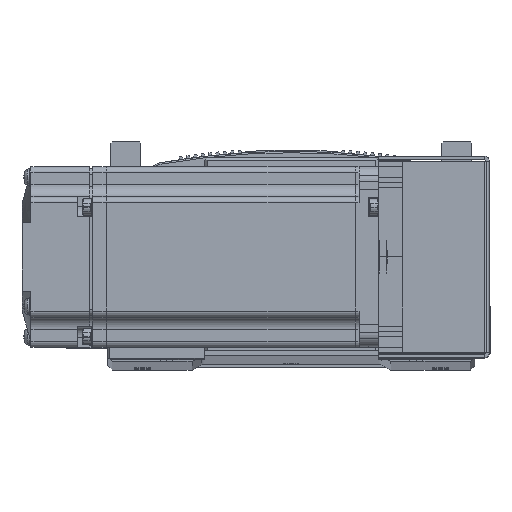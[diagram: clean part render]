
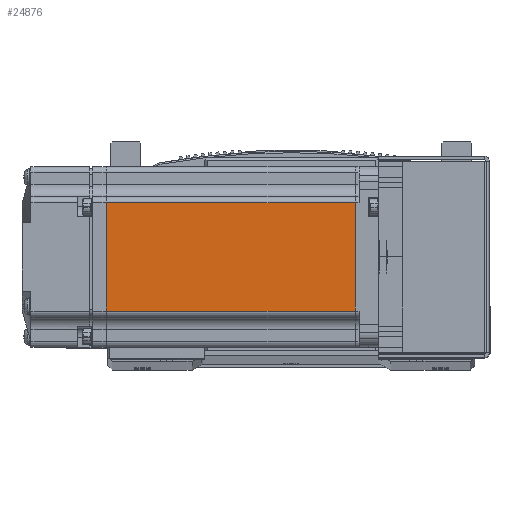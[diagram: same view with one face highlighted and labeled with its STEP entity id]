
A CAD part, top view. The second image highlights one B-rep face of the part: STEP entity #24876.
In plain terms, the highlighted planar face has unit normal (0, 0, 1) as drawn and (0, 1, 0) by its records, which use the part's own axes.
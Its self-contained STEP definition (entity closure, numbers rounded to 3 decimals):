
#9766 = VECTOR ( 'NONE', #81094, 1000. ) ;
#9773 = LINE ( 'NONE', #81117, #9766 ) ;
#10057 = LINE ( 'NONE', #81221, #10097 ) ;
#10060 = VECTOR ( 'NONE', #81248, 1000. ) ;
#10097 = VECTOR ( 'NONE', #81223, 1000. ) ;
#10135 = LINE ( 'NONE', #81268, #10060 ) ;
#10261 = LINE ( 'NONE', #81335, #10281 ) ;
#10281 = VECTOR ( 'NONE', #81361, 1000. ) ;
#14742 = CARTESIAN_POINT ( 'NONE',  ( -90.45, 30., -18. ) ) ;
#14747 = CARTESIAN_POINT ( 'NONE',  ( -7.75, 30., -18. ) ) ;
#14760 = CARTESIAN_POINT ( 'NONE',  ( -7.75, 30., 18. ) ) ;
#14763 = CARTESIAN_POINT ( 'NONE',  ( -90.45, 30., 18. ) ) ;
#23481 = PLANE ( 'NONE',  #64610 ) ;
#23484 = CARTESIAN_POINT ( 'NONE',  ( -6.5, 30., 25. ) ) ;
#23485 = FACE_OUTER_BOUND ( 'NONE', #72301, .T. ) ;
#23493 = DIRECTION ( 'NONE',  ( 0., 0., 1. ) ) ;
#23535 = DIRECTION ( 'NONE',  ( 0., 1., 0. ) ) ;
#24876 = ADVANCED_FACE ( 'NONE', ( #23485 ), #23481, .T. ) ;
#43957 = VERTEX_POINT ( 'NONE', #14742 ) ;
#44006 = VERTEX_POINT ( 'NONE', #14747 ) ;
#44011 = VERTEX_POINT ( 'NONE', #14760 ) ;
#44016 = VERTEX_POINT ( 'NONE', #14763 ) ;
#49968 = ORIENTED_EDGE ( 'NONE', *, *, #70909, .F. ) ;
#50046 = ORIENTED_EDGE ( 'NONE', *, *, #70861, .T. ) ;
#50060 = ORIENTED_EDGE ( 'NONE', *, *, #70859, .T. ) ;
#50069 = ORIENTED_EDGE ( 'NONE', *, *, #70796, .T. ) ;
#64610 = AXIS2_PLACEMENT_3D ( 'NONE', #23484, #23535, #23493 ) ;
#70796 = EDGE_CURVE ( 'NONE', #44016, #44011, #9773, .T. ) ;
#70859 = EDGE_CURVE ( 'NONE', #44006, #43957, #10057, .T. ) ;
#70861 = EDGE_CURVE ( 'NONE', #43957, #44016, #10135, .T. ) ;
#70909 = EDGE_CURVE ( 'NONE', #44006, #44011, #10261, .T. ) ;
#72301 = EDGE_LOOP ( 'NONE', ( #49968, #50060, #50046, #50069 ) ) ;
#81094 = DIRECTION ( 'NONE',  ( 1., 0., 0. ) ) ;
#81117 = CARTESIAN_POINT ( 'NONE',  ( -6.5, 30., 18. ) ) ;
#81221 = CARTESIAN_POINT ( 'NONE',  ( -6.5, 30., -18. ) ) ;
#81223 = DIRECTION ( 'NONE',  ( -1., 0., 0. ) ) ;
#81248 = DIRECTION ( 'NONE',  ( 0., 0., 1. ) ) ;
#81268 = CARTESIAN_POINT ( 'NONE',  ( -90.45, 30., 0. ) ) ;
#81335 = CARTESIAN_POINT ( 'NONE',  ( -7.75, 30., 0. ) ) ;
#81361 = DIRECTION ( 'NONE',  ( 0., 0., 1. ) ) ;
